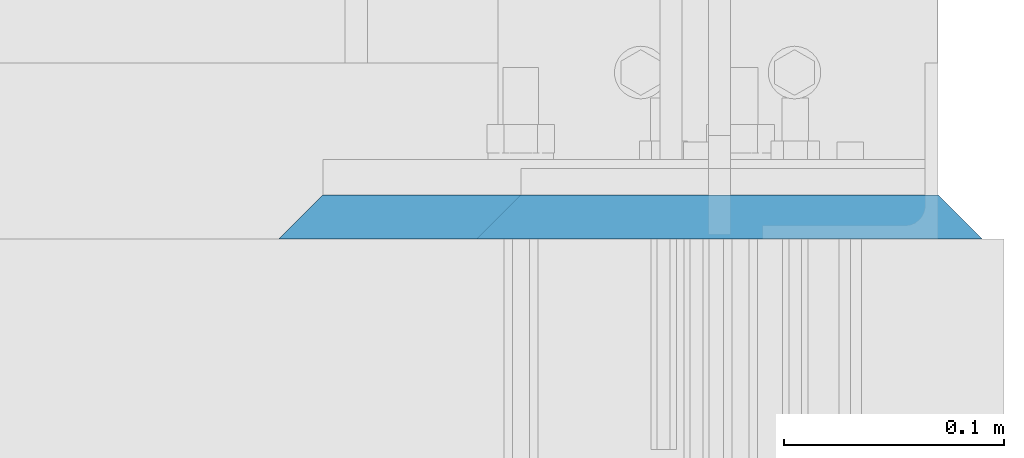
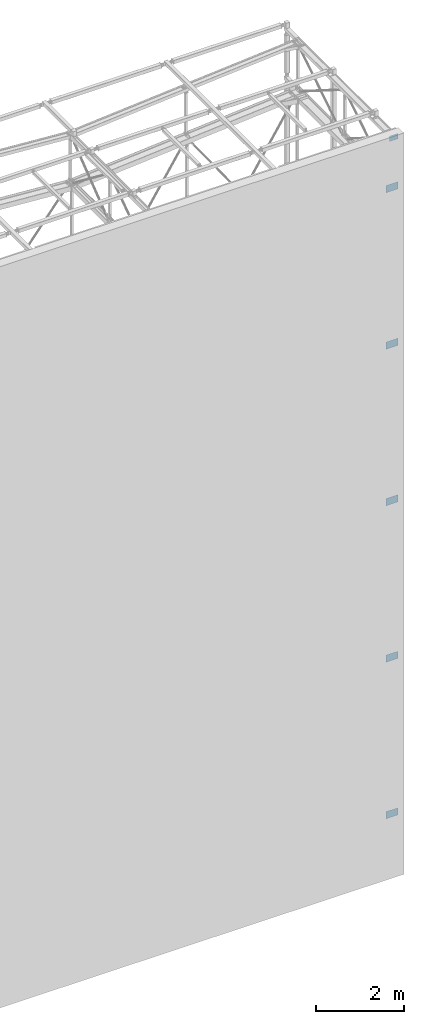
# One storey, part 160 of 271: 6 plates, 6 elements without a shape of their own.
"""IFC2X3 building model written with IfcOpenShell, lengths in millimetres."""

from ifc_helpers import new_model, si_unit, frame, origin_with_axes, place, context, subcontext, project, spatial, polyline, outline, extrude, boolean, material, type_object, element, aggregate, save


model = new_model("IFC2X3")

# Units and contexts
model_context = context("Model", 3, precision=1e-05, world=origin_with_axes())
body_context = subcontext(model_context, "Body", "Model", "MODEL_VIEW")
ifc_project = project(units=[si_unit("LENGTHUNIT", "METRE", prefix="MILLI"), si_unit("AREAUNIT", "SQUARE_METRE"), si_unit("VOLUMEUNIT", "CUBIC_METRE"), si_unit("MASSUNIT", "GRAM", prefix="KILO"), si_unit("TIMEUNIT", "SECOND"), si_unit("PLANEANGLEUNIT", "RADIAN"), si_unit("SOLIDANGLEUNIT", "STERADIAN"), si_unit("THERMODYNAMICTEMPERATUREUNIT", "DEGREE_CELSIUS"), si_unit("LUMINOUSINTENSITYUNIT", "LUMEN")], contexts=[model_context])

# Site, building, storey
site_placement = place(None, origin_with_axes())
site = spatial("IfcSite", under=ifc_project, at=site_placement, Name="Undefined", CompositionType="ELEMENT")
building_placement = place(site_placement, origin_with_axes())
building = spatial("IfcBuilding", under=site, at=building_placement, Name="Undefined", CompositionType="ELEMENT")
storey_placement = place(building_placement, origin_with_axes())
storey = spatial("IfcBuildingStorey", under=building, at=storey_placement, Name="Undefined", CompositionType="ELEMENT", Elevation=0.0)

# Assembly, plate
assembly_1_placement = place(storey_placement, origin_with_axes())
assembly_1 = element("IfcElementAssembly", 1, at=assembly_1_placement, inside=storey, Name="GROUT", AssemblyPlace="NOTDEFINED", PredefinedType="NOTDEFINED")
ifc_material = material(Name="Undefined/GROUT")
plate_type_1 = type_object("IfcPlateType", Name="BL20*150", PredefinedType="NOTDEFINED")
plate_1_placement = place(assembly_1_placement, frame((12498.3756870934, 9.32498425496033, 20079.3499999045), z_axis=(0.0, 1.0, 0.0), x_axis=(1.0, 0.0, 0.0)))
plate_1 = element("IfcPlate", 2, at=plate_1_placement, type_object=plate_type_1, material=ifc_material, Name="GROUT", ObjectType="BL20*150", context=body_context, shape_type="CSG", body=[
    boolean("DIFFERENCE", boolean("DIFFERENCE", boolean("DIFFERENCE", boolean("DIFFERENCE", extrude(outline(polyline([(0.0, 0.0), (230.0, 0.0), (230.0, 150.0), (1.4210854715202e-14, 150.0), (0.0, 0.0)])), frame((0.0, 0.0, -10.0), z_axis=(0.0, 0.0, 1.0), x_axis=(1.0, 0.0, 0.0)), (0.0, 0.0, 1.0), 20.0), extrude(outline(polyline([(0.0, 0.0), (44.2842712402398, -1.45519152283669e-11), (22.1421356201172, 22.1421356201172), (0.0, 0.0)])), frame((-5.65685424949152, 158.0, -15.6568542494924), z_axis=(0.0, -1.0, 0.0), x_axis=(0.707106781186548, 0.0, 0.707106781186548)), (0.0, 0.0, 1.0), 166.0)), extrude(outline(polyline([(0.0, 0.0), (42.2842712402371, -1.54614099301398e-11), (21.1421356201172, 21.1421356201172), (0.0, 0.0)])), frame((237.0, 154.949747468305, -14.9497474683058), z_axis=(-1.0, 0.0, 1.38777878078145e-17), x_axis=(0.0, -0.707106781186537, 0.707106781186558)), (0.0, 0.0, 1.0), 244.0)), extrude(outline(polyline([(0.0, 0.0), (40.2842712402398, -1.45519152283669e-11), (20.1421356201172, 20.1421356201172), (0.0, 0.0)])), frame((234.24264068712, -6.0, -14.2426406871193), z_axis=(0.0, 1.0, 0.0), x_axis=(-0.707106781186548, 0.0, 0.707106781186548)), (0.0, 0.0, 1.0), 162.0)), extrude(outline(polyline([(0.0, 0.0), (38.284271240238, -1.45519152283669e-11), (19.1421356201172, 19.1421356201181), (0.0, 0.0)])), frame((-5.0, -3.53553390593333, -13.5355339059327), z_axis=(1.0, 0.0, 0.0), x_axis=(0.0, 0.707106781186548, 0.707106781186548)), (0.0, 0.0, 1.0), 240.0)),
])
aggregate(assembly_1, [plate_1])

assembly_2_placement = place(storey_placement, origin_with_axes())
assembly_2 = element("IfcElementAssembly", 3, at=assembly_2_placement, inside=storey, Name="GROUT", AssemblyPlace="NOTDEFINED", PredefinedType="NOTDEFINED")
plate_type_2 = type_object("IfcPlateType", Name="BL20*200", PredefinedType="NOTDEFINED")
plate_2_placement = place(assembly_2_placement, frame((12408.3756870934, 9.32498425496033, 1464.34999990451), z_axis=(0.0, 1.0, 0.0), x_axis=(1.0, 0.0, 0.0)))
plate_2 = element("IfcPlate", 4, at=plate_2_placement, type_object=plate_type_2, material=ifc_material, Name="GROUT", ObjectType="BL20*200", context=body_context, shape_type="CSG", body=[
    boolean("DIFFERENCE", boolean("DIFFERENCE", boolean("DIFFERENCE", boolean("DIFFERENCE", extrude(outline(polyline([(0.0, 0.0), (320.0, 0.0), (320.0, 200.0), (0.0, 200.0), (0.0, 0.0)])), frame((0.0, 0.0, -10.0), z_axis=(0.0, 0.0, 1.0), x_axis=(1.0, 0.0, 0.0)), (0.0, 0.0, 1.0), 20.0), extrude(outline(polyline([(0.0, 0.0), (44.2842712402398, -1.45519152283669e-11), (22.1421356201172, 22.1421356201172), (0.0, 0.0)])), frame((-5.65685424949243, 208.0, -15.6568542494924), z_axis=(0.0, -1.0, 0.0), x_axis=(0.707106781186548, 0.0, 0.707106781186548)), (0.0, 0.0, 1.0), 216.0)), extrude(outline(polyline([(0.0, 0.0), (42.2842712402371, -1.54614099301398e-11), (21.1421356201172, 21.1421356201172), (0.0, 0.0)])), frame((327.0, 204.949747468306, -14.9497474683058), z_axis=(-1.0, 0.0, 1.38777878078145e-17), x_axis=(0.0, -0.707106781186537, 0.707106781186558)), (0.0, 0.0, 1.0), 334.0)), extrude(outline(polyline([(0.0, 0.0), (40.2842712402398, -1.45519152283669e-11), (20.1421356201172, 20.1421356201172), (0.0, 0.0)])), frame((324.24264068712, -6.0, -14.2426406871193), z_axis=(0.0, 1.0, 0.0), x_axis=(-0.707106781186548, 0.0, 0.707106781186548)), (0.0, 0.0, 1.0), 212.0)), extrude(outline(polyline([(0.0, 0.0), (38.284271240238, -1.45519152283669e-11), (19.1421356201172, 19.1421356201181), (0.0, 0.0)])), frame((-5.0, -3.53553390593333, -13.5355339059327), z_axis=(1.0, 0.0, 0.0), x_axis=(0.0, 0.707106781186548, 0.707106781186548)), (0.0, 0.0, 1.0), 330.0)),
])
aggregate(assembly_2, [plate_2])

assembly_3_placement = place(storey_placement, origin_with_axes())
assembly_3 = element("IfcElementAssembly", 5, at=assembly_3_placement, inside=storey, Name="GROUT", AssemblyPlace="NOTDEFINED", PredefinedType="NOTDEFINED")
plate_3_placement = place(assembly_3_placement, frame((12408.3756870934, 9.32498425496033, 5784.34999990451), z_axis=(0.0, 1.0, 0.0), x_axis=(1.0, 0.0, 0.0)))
plate_3 = element("IfcPlate", 6, at=plate_3_placement, type_object=plate_type_2, material=ifc_material, Name="GROUT", ObjectType="BL20*200", context=body_context, shape_type="CSG", body=[
    boolean("DIFFERENCE", boolean("DIFFERENCE", boolean("DIFFERENCE", boolean("DIFFERENCE", extrude(outline(polyline([(0.0, 0.0), (320.0, 0.0), (320.0, 200.0), (0.0, 200.0), (0.0, 0.0)])), frame((0.0, 0.0, -10.0), z_axis=(0.0, 0.0, 1.0), x_axis=(1.0, 0.0, 0.0)), (0.0, 0.0, 1.0), 20.0), extrude(outline(polyline([(0.0, 0.0), (44.2842712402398, -1.45519152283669e-11), (22.1421356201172, 22.1421356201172), (0.0, 0.0)])), frame((-5.65685424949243, 208.0, -15.6568542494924), z_axis=(0.0, -1.0, 0.0), x_axis=(0.707106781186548, 0.0, 0.707106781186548)), (0.0, 0.0, 1.0), 216.0)), extrude(outline(polyline([(0.0, 0.0), (42.2842712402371, -1.54614099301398e-11), (21.1421356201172, 21.1421356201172), (0.0, 0.0)])), frame((327.0, 204.949747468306, -14.9497474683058), z_axis=(-1.0, 0.0, 1.38777878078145e-17), x_axis=(0.0, -0.707106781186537, 0.707106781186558)), (0.0, 0.0, 1.0), 334.0)), extrude(outline(polyline([(0.0, 0.0), (40.2842712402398, -1.45519152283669e-11), (20.1421356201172, 20.1421356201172), (0.0, 0.0)])), frame((324.24264068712, -6.0, -14.2426406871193), z_axis=(0.0, 1.0, 0.0), x_axis=(-0.707106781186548, 0.0, 0.707106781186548)), (0.0, 0.0, 1.0), 212.0)), extrude(outline(polyline([(0.0, 0.0), (38.284271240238, -1.45519152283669e-11), (19.1421356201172, 19.1421356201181), (0.0, 0.0)])), frame((-5.0, -3.53553390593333, -13.5355339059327), z_axis=(1.0, 0.0, 0.0), x_axis=(0.0, 0.707106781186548, 0.707106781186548)), (0.0, 0.0, 1.0), 330.0)),
])
aggregate(assembly_3, [plate_3])

assembly_4_placement = place(storey_placement, origin_with_axes())
assembly_4 = element("IfcElementAssembly", 7, at=assembly_4_placement, inside=storey, Name="GROUT", AssemblyPlace="NOTDEFINED", PredefinedType="NOTDEFINED")
plate_4_placement = place(assembly_4_placement, frame((12408.3756870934, 9.32498425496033, 10104.3499999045), z_axis=(0.0, 1.0, 0.0), x_axis=(1.0, 0.0, 0.0)))
plate_4 = element("IfcPlate", 8, at=plate_4_placement, type_object=plate_type_2, material=ifc_material, Name="GROUT", ObjectType="BL20*200", context=body_context, shape_type="CSG", body=[
    boolean("DIFFERENCE", boolean("DIFFERENCE", boolean("DIFFERENCE", boolean("DIFFERENCE", extrude(outline(polyline([(0.0, 0.0), (320.0, 0.0), (320.0, 200.0), (0.0, 200.0), (0.0, 0.0)])), frame((0.0, 0.0, -10.0), z_axis=(0.0, 0.0, 1.0), x_axis=(1.0, 0.0, 0.0)), (0.0, 0.0, 1.0), 20.0), extrude(outline(polyline([(0.0, 0.0), (44.2842712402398, -1.45519152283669e-11), (22.1421356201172, 22.1421356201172), (0.0, 0.0)])), frame((-5.65685424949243, 208.0, -15.6568542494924), z_axis=(0.0, -1.0, 0.0), x_axis=(0.707106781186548, 0.0, 0.707106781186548)), (0.0, 0.0, 1.0), 216.0)), extrude(outline(polyline([(0.0, 0.0), (42.2842712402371, -1.54614099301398e-11), (21.1421356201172, 21.1421356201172), (0.0, 0.0)])), frame((327.0, 204.949747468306, -14.9497474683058), z_axis=(-1.0, 0.0, 1.38777878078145e-17), x_axis=(0.0, -0.707106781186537, 0.707106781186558)), (0.0, 0.0, 1.0), 334.0)), extrude(outline(polyline([(0.0, 0.0), (40.2842712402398, -1.45519152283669e-11), (20.1421356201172, 20.1421356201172), (0.0, 0.0)])), frame((324.24264068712, -6.0, -14.2426406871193), z_axis=(0.0, 1.0, 0.0), x_axis=(-0.707106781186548, 0.0, 0.707106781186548)), (0.0, 0.0, 1.0), 212.0)), extrude(outline(polyline([(0.0, 0.0), (38.284271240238, -1.45519152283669e-11), (19.1421356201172, 19.1421356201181), (0.0, 0.0)])), frame((-5.0, -3.53553390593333, -13.5355339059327), z_axis=(1.0, 0.0, 0.0), x_axis=(0.0, 0.707106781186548, 0.707106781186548)), (0.0, 0.0, 1.0), 330.0)),
])
aggregate(assembly_4, [plate_4])

assembly_5_placement = place(storey_placement, origin_with_axes())
assembly_5 = element("IfcElementAssembly", 9, at=assembly_5_placement, inside=storey, Name="GROUT", AssemblyPlace="NOTDEFINED", PredefinedType="NOTDEFINED")
plate_5_placement = place(assembly_5_placement, frame((12408.3756870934, 9.32498425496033, 14424.3499999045), z_axis=(0.0, 1.0, 0.0), x_axis=(1.0, 0.0, 0.0)))
plate_5 = element("IfcPlate", 10, at=plate_5_placement, type_object=plate_type_2, material=ifc_material, Name="GROUT", ObjectType="BL20*200", context=body_context, shape_type="CSG", body=[
    boolean("DIFFERENCE", boolean("DIFFERENCE", boolean("DIFFERENCE", boolean("DIFFERENCE", extrude(outline(polyline([(0.0, 0.0), (320.0, 0.0), (320.0, 200.0), (0.0, 200.0), (0.0, 0.0)])), frame((0.0, 0.0, -10.0), z_axis=(0.0, 0.0, 1.0), x_axis=(1.0, 0.0, 0.0)), (0.0, 0.0, 1.0), 20.0), extrude(outline(polyline([(0.0, 0.0), (44.2842712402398, -1.45519152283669e-11), (22.1421356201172, 22.1421356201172), (0.0, 0.0)])), frame((-5.65685424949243, 208.0, -15.6568542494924), z_axis=(0.0, -1.0, 0.0), x_axis=(0.707106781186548, 0.0, 0.707106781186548)), (0.0, 0.0, 1.0), 216.0)), extrude(outline(polyline([(0.0, 0.0), (42.2842712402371, -1.54614099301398e-11), (21.1421356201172, 21.1421356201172), (0.0, 0.0)])), frame((327.0, 204.949747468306, -14.9497474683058), z_axis=(-1.0, 0.0, 1.38777878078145e-17), x_axis=(0.0, -0.707106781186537, 0.707106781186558)), (0.0, 0.0, 1.0), 334.0)), extrude(outline(polyline([(0.0, 0.0), (40.2842712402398, -1.45519152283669e-11), (20.1421356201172, 20.1421356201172), (0.0, 0.0)])), frame((324.24264068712, -6.0, -14.2426406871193), z_axis=(0.0, 1.0, 0.0), x_axis=(-0.707106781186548, 0.0, 0.707106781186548)), (0.0, 0.0, 1.0), 212.0)), extrude(outline(polyline([(0.0, 0.0), (38.284271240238, -1.45519152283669e-11), (19.1421356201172, 19.1421356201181), (0.0, 0.0)])), frame((-5.0, -3.53553390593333, -13.5355339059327), z_axis=(1.0, 0.0, 0.0), x_axis=(0.0, 0.707106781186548, 0.707106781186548)), (0.0, 0.0, 1.0), 330.0)),
])
aggregate(assembly_5, [plate_5])

assembly_6_placement = place(storey_placement, origin_with_axes())
assembly_6 = element("IfcElementAssembly", 11, at=assembly_6_placement, inside=storey, Name="GROUT", AssemblyPlace="NOTDEFINED", PredefinedType="NOTDEFINED")
plate_6_placement = place(assembly_6_placement, frame((12408.3756870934, 9.32498425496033, 18744.3499999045), z_axis=(0.0, 1.0, 0.0), x_axis=(1.0, 0.0, 0.0)))
plate_6 = element("IfcPlate", 12, at=plate_6_placement, type_object=plate_type_2, material=ifc_material, Name="GROUT", ObjectType="BL20*200", context=body_context, shape_type="CSG", body=[
    boolean("DIFFERENCE", boolean("DIFFERENCE", boolean("DIFFERENCE", boolean("DIFFERENCE", extrude(outline(polyline([(0.0, 0.0), (320.0, 0.0), (320.0, 200.0), (0.0, 200.0), (0.0, 0.0)])), frame((0.0, 0.0, -10.0), z_axis=(0.0, 0.0, 1.0), x_axis=(1.0, 0.0, 0.0)), (0.0, 0.0, 1.0), 20.0), extrude(outline(polyline([(0.0, 0.0), (44.2842712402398, -1.45519152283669e-11), (22.1421356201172, 22.1421356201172), (0.0, 0.0)])), frame((-5.65685424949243, 208.0, -15.6568542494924), z_axis=(0.0, -1.0, 0.0), x_axis=(0.707106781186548, 0.0, 0.707106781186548)), (0.0, 0.0, 1.0), 216.0)), extrude(outline(polyline([(0.0, 0.0), (42.2842712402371, -1.54614099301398e-11), (21.1421356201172, 21.1421356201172), (0.0, 0.0)])), frame((327.0, 204.949747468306, -14.9497474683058), z_axis=(-1.0, 0.0, 1.38777878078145e-17), x_axis=(0.0, -0.707106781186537, 0.707106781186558)), (0.0, 0.0, 1.0), 334.0)), extrude(outline(polyline([(0.0, 0.0), (40.2842712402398, -1.45519152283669e-11), (20.1421356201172, 20.1421356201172), (0.0, 0.0)])), frame((324.24264068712, -6.0, -14.2426406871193), z_axis=(0.0, 1.0, 0.0), x_axis=(-0.707106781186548, 0.0, 0.707106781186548)), (0.0, 0.0, 1.0), 212.0)), extrude(outline(polyline([(0.0, 0.0), (38.284271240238, -1.45519152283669e-11), (19.1421356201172, 19.1421356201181), (0.0, 0.0)])), frame((-5.0, -3.53553390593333, -13.5355339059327), z_axis=(1.0, 0.0, 0.0), x_axis=(0.0, 0.707106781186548, 0.707106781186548)), (0.0, 0.0, 1.0), 330.0)),
])
aggregate(assembly_6, [plate_6])

save(model, "model.ifc")
